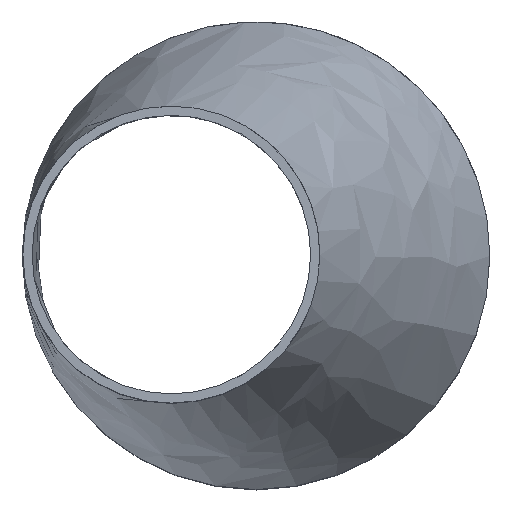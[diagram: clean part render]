
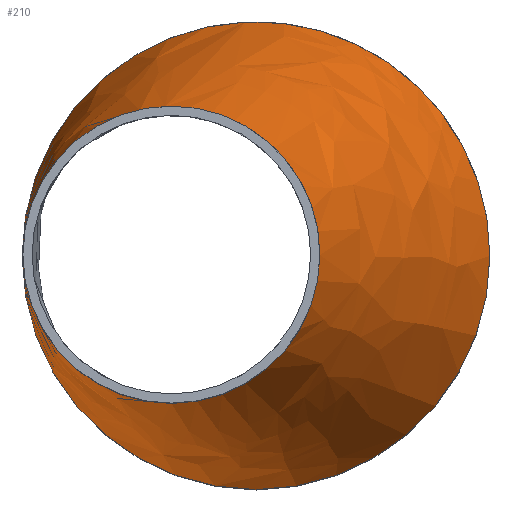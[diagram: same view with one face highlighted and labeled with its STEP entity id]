
A CAD part, top view. The second image highlights one B-rep face of the part: STEP entity #210.
In plain terms, the highlighted free-form (B-spline) face has degree [1, 2] with [2, 9] control points.
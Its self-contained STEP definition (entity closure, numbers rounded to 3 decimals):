
#15=B_SPLINE_CURVE_WITH_KNOTS($,1,(#401,#402),.UNSPECIFIED.,.F.,.F.,(2,
2),(-1.739,0.),.UNSPECIFIED.);
#17=(
BOUNDED_SURFACE()
B_SPLINE_SURFACE(1,2,((#379,#380,#381,#382,#383,#384,#385,#386,#387),(#388,
#389,#390,#391,#392,#393,#394,#395,#396)),.UNSPECIFIED.,.F.,.T.,.F.)
B_SPLINE_SURFACE_WITH_KNOTS((2,2),(3,2,2,2,3),(-0.218,1.868),
(-3.142,-1.571,0.,1.571,3.142),
 .UNSPECIFIED.)
GEOMETRIC_REPRESENTATION_ITEM()
RATIONAL_B_SPLINE_SURFACE(((1.,0.707,1.,0.707,1.,
0.707,1.,0.707,1.),(1.,0.707,1.,0.707,
1.,0.707,1.,0.707,1.)))
REPRESENTATION_ITEM($)
SURFACE()
);
#47=FACE_OUTER_BOUND($,#67,.T.);
#67=EDGE_LOOP($,(#167,#168,#169,#170,#171,#172));
#83=CIRCLE($,#231,157.5);
#84=CIRCLE($,#232,157.5);
#93=CIRCLE($,#243,100.);
#94=CIRCLE($,#244,100.);
#103=VERTEX_POINT($,#337);
#104=VERTEX_POINT($,#338);
#113=VERTEX_POINT($,#397);
#114=VERTEX_POINT($,#398);
#123=EDGE_CURVE($,#103,#104,#83,.T.);
#124=EDGE_CURVE($,#104,#103,#84,.T.);
#134=EDGE_CURVE($,#113,#114,#93,.T.);
#135=EDGE_CURVE($,#114,#113,#94,.T.);
#136=EDGE_CURVE($,#114,#104,#15,.T.);
#167=ORIENTED_EDGE($,*,*,#134,.F.);
#168=ORIENTED_EDGE($,*,*,#135,.F.);
#169=ORIENTED_EDGE($,*,*,#136,.T.);
#170=ORIENTED_EDGE($,*,*,#123,.F.);
#171=ORIENTED_EDGE($,*,*,#124,.F.);
#172=ORIENTED_EDGE($,*,*,#136,.F.);
#210=ADVANCED_FACE($,(#47),#17,.F.);
#231=AXIS2_PLACEMENT_3D($,#339,#278,#279);
#232=AXIS2_PLACEMENT_3D($,#340,#280,#281);
#243=AXIS2_PLACEMENT_3D($,#399,#302,#303);
#244=AXIS2_PLACEMENT_3D($,#400,#304,#305);
#278=DIRECTION('center_axis',(0.,0.,-1.));
#279=DIRECTION('ref_axis',(-1.,0.,0.));
#280=DIRECTION('center_axis',(0.,0.,-1.));
#281=DIRECTION('ref_axis',(-1.,0.,0.));
#302=DIRECTION('center_axis',(0.,0.,1.));
#303=DIRECTION('ref_axis',(-1.,0.,0.));
#304=DIRECTION('center_axis',(0.,0.,1.));
#305=DIRECTION('ref_axis',(-1.,0.,0.));
#337=CARTESIAN_POINT('',(157.5,0.,161.));
#338=CARTESIAN_POINT('',(-6.878,157.35,161.));
#339=CARTESIAN_POINT('Origin',(0.,0.,161.));
#340=CARTESIAN_POINT('Origin',(0.,0.,161.));
#379=CARTESIAN_POINT('Ctrl Pts',(-0.063,164.535,128.231));
#380=CARTESIAN_POINT('Ctrl Pts',(-157.625,164.535,95.462));
#381=CARTESIAN_POINT('Ctrl Pts',(-157.625,0.,
95.462));
#382=CARTESIAN_POINT('Ctrl Pts',(-157.625,-164.535,95.462));
#383=CARTESIAN_POINT('Ctrl Pts',(-0.063,-164.535,
128.231));
#384=CARTESIAN_POINT('Ctrl Pts',(157.5,-164.535,161.));
#385=CARTESIAN_POINT('Ctrl Pts',(157.5,0.,161.));
#386=CARTESIAN_POINT('Ctrl Pts',(157.5,164.535,161.));
#387=CARTESIAN_POINT('Ctrl Pts',(-0.063,164.535,128.231));
#388=CARTESIAN_POINT('Ctrl Pts',(-65.401,95.652,442.397));
#389=CARTESIAN_POINT('Ctrl Pts',(-156.999,95.652,423.347));
#390=CARTESIAN_POINT('Ctrl Pts',(-156.999,0.,
423.347));
#391=CARTESIAN_POINT('Ctrl Pts',(-156.999,-95.652,423.347));
#392=CARTESIAN_POINT('Ctrl Pts',(-65.401,-95.652,442.397));
#393=CARTESIAN_POINT('Ctrl Pts',(26.198,-95.652,461.447));
#394=CARTESIAN_POINT('Ctrl Pts',(26.198,0.,
461.447));
#395=CARTESIAN_POINT('Ctrl Pts',(26.198,95.652,461.447));
#396=CARTESIAN_POINT('Ctrl Pts',(-65.401,95.652,442.397));
#397=CARTESIAN_POINT('',(43.,0.,423.));
#398=CARTESIAN_POINT('',(-61.367,99.905,423.));
#399=CARTESIAN_POINT('Origin',(-57.,0.,423.));
#400=CARTESIAN_POINT('Origin',(-57.,0.,423.));
#401=CARTESIAN_POINT('Ctrl Pts',(-61.367,99.905,423.));
#402=CARTESIAN_POINT('Ctrl Pts',(-6.878,157.35,161.));
